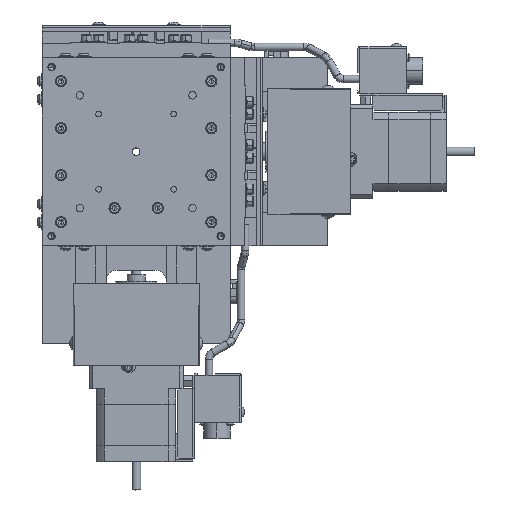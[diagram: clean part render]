
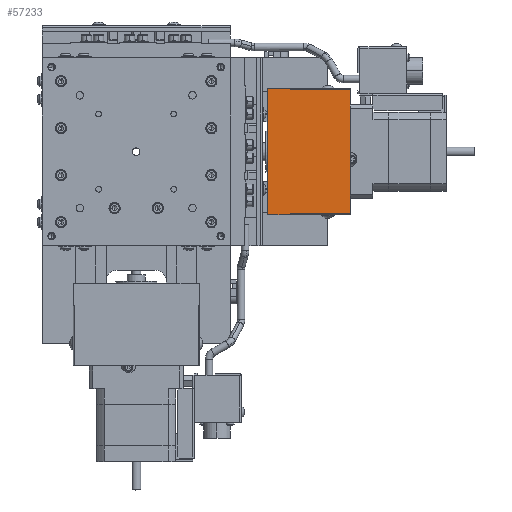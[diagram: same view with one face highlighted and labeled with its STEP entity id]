
A CAD part, top view. The second image highlights one B-rep face of the part: STEP entity #57233.
In plain terms, the highlighted planar face has unit normal (0, 0, 1).
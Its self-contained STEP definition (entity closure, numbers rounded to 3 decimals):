
#1001 = CARTESIAN_POINT ( 'NONE',  ( -231.42, -3.5, -128.244 ) ) ;
#2867 = VECTOR ( 'NONE', #19500, 1000. ) ;
#3120 = LINE ( 'NONE', #118868, #121899 ) ;
#5053 = VERTEX_POINT ( 'NONE', #93320 ) ;
#5628 = VERTEX_POINT ( 'NONE', #64642 ) ;
#7995 = DIRECTION ( 'NONE',  ( 0., 1., 0. ) ) ;
#8745 = CARTESIAN_POINT ( 'NONE',  ( -263.42, 30.031, -128.244 ) ) ;
#8844 = VECTOR ( 'NONE', #92859, 1000. ) ;
#8915 = LINE ( 'NONE', #1001, #2867 ) ;
#12136 = CARTESIAN_POINT ( 'NONE',  ( -231.42, -3., -128.244 ) ) ;
#12421 = ORIENTED_EDGE ( 'NONE', *, *, #74395, .F. ) ;
#12837 = PLANE ( 'NONE',  #88838 ) ;
#12989 = ORIENTED_EDGE ( 'NONE', *, *, #37003, .F. ) ;
#15048 = CARTESIAN_POINT ( 'NONE',  ( -263.42, 30., -128.244 ) ) ;
#15826 = ORIENTED_EDGE ( 'NONE', *, *, #96440, .F. ) ;
#19500 = DIRECTION ( 'NONE',  ( 0., 1., 0. ) ) ;
#21653 = CARTESIAN_POINT ( 'NONE',  ( -263.42, 30., -128.244 ) ) ;
#21990 = CARTESIAN_POINT ( 'NONE',  ( -263.42, 55., -128.244 ) ) ;
#22131 = EDGE_CURVE ( 'NONE', #82874, #28989, #8915, .T. ) ;
#22291 = LINE ( 'NONE', #56617, #80955 ) ;
#23261 = ORIENTED_EDGE ( 'NONE', *, *, #102889, .T. ) ;
#23308 = VECTOR ( 'NONE', #7995, 1000. ) ;
#27063 = LINE ( 'NONE', #15048, #72188 ) ;
#28562 = EDGE_CURVE ( 'NONE', #5053, #52830, #98377, .T. ) ;
#28989 = VERTEX_POINT ( 'NONE', #12136 ) ;
#31036 = LINE ( 'NONE', #88822, #74641 ) ;
#32109 = VECTOR ( 'NONE', #44163, 1000. ) ;
#34589 = ORIENTED_EDGE ( 'NONE', *, *, #76371, .F. ) ;
#37003 = EDGE_CURVE ( 'NONE', #95411, #56781, #84995, .T. ) ;
#37571 = LINE ( 'NONE', #82837, #8844 ) ;
#39948 = CARTESIAN_POINT ( 'NONE',  ( -231.42, -3.5, -128.244 ) ) ;
#39984 = ORIENTED_EDGE ( 'NONE', *, *, #22131, .F. ) ;
#41842 = DIRECTION ( 'NONE',  ( -1., 0., 0. ) ) ;
#41853 = VERTEX_POINT ( 'NONE', #112872 ) ;
#41902 = EDGE_CURVE ( 'NONE', #108356, #95411, #105616, .T. ) ;
#43058 = DIRECTION ( 'NONE',  ( 0., 0., 1. ) ) ;
#43161 = CARTESIAN_POINT ( 'NONE',  ( -263.42, -3., -128.244 ) ) ;
#44163 = DIRECTION ( 'NONE',  ( 0., 1., 0. ) ) ;
#50197 = EDGE_CURVE ( 'NONE', #56781, #72794, #57708, .T. ) ;
#51488 = CARTESIAN_POINT ( 'NONE',  ( -219.42, -3.5, -128.244 ) ) ;
#52830 = VERTEX_POINT ( 'NONE', #76333 ) ;
#54802 = EDGE_CURVE ( 'NONE', #88114, #28989, #104455, .T. ) ;
#56617 = CARTESIAN_POINT ( 'NONE',  ( -247.42, 63., -128.244 ) ) ;
#56781 = VERTEX_POINT ( 'NONE', #21990 ) ;
#57233 = ADVANCED_FACE ( 'NONE', ( #84398 ), #12837, .T. ) ;
#57708 = LINE ( 'NONE', #83739, #32109 ) ;
#60379 = EDGE_LOOP ( 'NONE', ( #39984, #34589, #102883, #23261, #15826, #75055, #102717, #12989, #70277, #12421, #74063, #69293 ) ) ;
#62982 = DIRECTION ( 'NONE',  ( 0., 1., 0. ) ) ;
#63556 = VECTOR ( 'NONE', #117085, 1000. ) ;
#64642 = CARTESIAN_POINT ( 'NONE',  ( -231.42, 63.5, -128.244 ) ) ;
#69293 = ORIENTED_EDGE ( 'NONE', *, *, #54802, .T. ) ;
#70277 = ORIENTED_EDGE ( 'NONE', *, *, #41902, .F. ) ;
#71292 = CARTESIAN_POINT ( 'NONE',  ( -263.42, 63., -128.244 ) ) ;
#72188 = VECTOR ( 'NONE', #62982, 1000. ) ;
#72220 = EDGE_CURVE ( 'NONE', #88114, #41853, #37571, .T. ) ;
#72381 = CARTESIAN_POINT ( 'NONE',  ( -247.42, -3., -128.244 ) ) ;
#72794 = VERTEX_POINT ( 'NONE', #71292 ) ;
#74063 = ORIENTED_EDGE ( 'NONE', *, *, #72220, .F. ) ;
#74395 = EDGE_CURVE ( 'NONE', #41853, #108356, #27063, .T. ) ;
#74641 = VECTOR ( 'NONE', #80448, 1000. ) ;
#75055 = ORIENTED_EDGE ( 'NONE', *, *, #97726, .T. ) ;
#76333 = CARTESIAN_POINT ( 'NONE',  ( -219.42, 63.5, -128.244 ) ) ;
#76371 = EDGE_CURVE ( 'NONE', #5053, #82874, #31036, .T. ) ;
#80448 = DIRECTION ( 'NONE',  ( -1., 0., 0. ) ) ;
#80592 = CARTESIAN_POINT ( 'NONE',  ( -263.42, 37.969, -128.244 ) ) ;
#80955 = VECTOR ( 'NONE', #93248, 1000. ) ;
#81144 = CARTESIAN_POINT ( 'NONE',  ( -219.42, 63.5, -128.244 ) ) ;
#81236 = CARTESIAN_POINT ( 'NONE',  ( -219.42, -3.5, -128.244 ) ) ;
#82837 = CARTESIAN_POINT ( 'NONE',  ( -263.42, 30., -128.244 ) ) ;
#82874 = VERTEX_POINT ( 'NONE', #39948 ) ;
#83739 = CARTESIAN_POINT ( 'NONE',  ( -263.42, 30., -128.244 ) ) ;
#84398 = FACE_OUTER_BOUND ( 'NONE', #60379, .T. ) ;
#84977 = VECTOR ( 'NONE', #119836, 1000. ) ;
#84995 = LINE ( 'NONE', #103823, #23308 ) ;
#88114 = VERTEX_POINT ( 'NONE', #43161 ) ;
#88822 = CARTESIAN_POINT ( 'NONE',  ( -219.42, -3.5, -128.244 ) ) ;
#88838 = AXIS2_PLACEMENT_3D ( 'NONE', #51488, #43058, #41842 ) ;
#92859 = DIRECTION ( 'NONE',  ( 0., 1., 0. ) ) ;
#93248 = DIRECTION ( 'NONE',  ( -1., 0., 0. ) ) ;
#93320 = CARTESIAN_POINT ( 'NONE',  ( -219.42, -3.5, -128.244 ) ) ;
#95411 = VERTEX_POINT ( 'NONE', #80592 ) ;
#96440 = EDGE_CURVE ( 'NONE', #124065, #5628, #3120, .T. ) ;
#97726 = EDGE_CURVE ( 'NONE', #124065, #72794, #22291, .T. ) ;
#98377 = LINE ( 'NONE', #81236, #122443 ) ;
#98877 = VECTOR ( 'NONE', #99164, 1000. ) ;
#99164 = DIRECTION ( 'NONE',  ( -1., 0., 0. ) ) ;
#102717 = ORIENTED_EDGE ( 'NONE', *, *, #50197, .F. ) ;
#102883 = ORIENTED_EDGE ( 'NONE', *, *, #28562, .T. ) ;
#102889 = EDGE_CURVE ( 'NONE', #52830, #5628, #124436, .T. ) ;
#103823 = CARTESIAN_POINT ( 'NONE',  ( -263.42, 30., -128.244 ) ) ;
#104455 = LINE ( 'NONE', #72381, #84977 ) ;
#105616 = LINE ( 'NONE', #21653, #63556 ) ;
#108105 = DIRECTION ( 'NONE',  ( 0., 1., 0. ) ) ;
#108356 = VERTEX_POINT ( 'NONE', #8745 ) ;
#112872 = CARTESIAN_POINT ( 'NONE',  ( -263.42, 5., -128.244 ) ) ;
#117085 = DIRECTION ( 'NONE',  ( 0., 1., 0. ) ) ;
#118868 = CARTESIAN_POINT ( 'NONE',  ( -231.42, -3.5, -128.244 ) ) ;
#119264 = DIRECTION ( 'NONE',  ( 0., 1., 0. ) ) ;
#119836 = DIRECTION ( 'NONE',  ( 1., 0., 0. ) ) ;
#121899 = VECTOR ( 'NONE', #119264, 1000. ) ;
#122443 = VECTOR ( 'NONE', #108105, 1000. ) ;
#122885 = CARTESIAN_POINT ( 'NONE',  ( -231.42, 63., -128.244 ) ) ;
#124065 = VERTEX_POINT ( 'NONE', #122885 ) ;
#124436 = LINE ( 'NONE', #81144, #98877 ) ;
